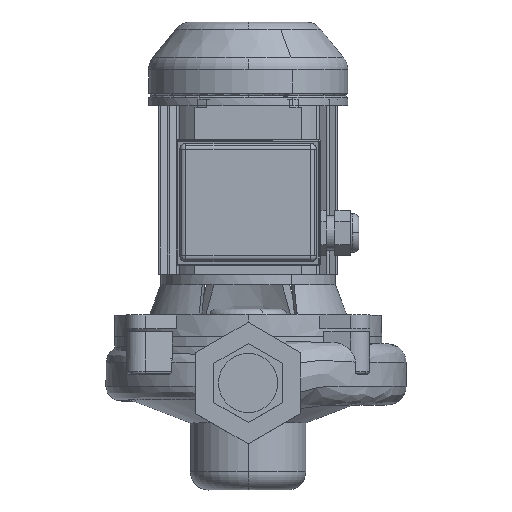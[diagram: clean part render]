
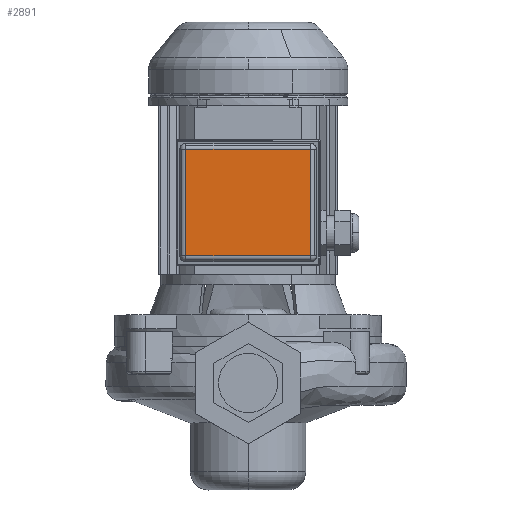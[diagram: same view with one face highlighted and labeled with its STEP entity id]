
A CAD part, top view. The second image highlights one B-rep face of the part: STEP entity #2891.
In plain terms, the highlighted planar face has unit normal (0, 0, 1).
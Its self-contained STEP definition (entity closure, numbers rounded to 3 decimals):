
#2891=ADVANCED_FACE('',(#6390),#6391,.T.);
#3145=EDGE_CURVE('',#6795,#6799,#6800,.T.);
#3151=EDGE_CURVE('',#6805,#6795,#6809,.T.);
#3157=EDGE_CURVE('',#6814,#6805,#6818,.T.);
#3187=EDGE_CURVE('',#6799,#6814,#6863,.T.);
#6390=FACE_OUTER_BOUND('',#11128,.T.);
#6391=PLANE('',#11129);
#6795=VERTEX_POINT('',#11605);
#6799=VERTEX_POINT('',#11610);
#6800=LINE('',#11611,#11612);
#6805=VERTEX_POINT('',#11619);
#6809=LINE('',#11624,#11625);
#6814=VERTEX_POINT('',#11632);
#6818=LINE('',#11637,#11638);
#6863=LINE('',#11702,#11703);
#11128=EDGE_LOOP('',(#19491,#19492,#19493,#19494));
#11129=AXIS2_PLACEMENT_3D('',#19495,#19496,#19497);
#11605=CARTESIAN_POINT('',(-73.77,-79.02,390.0));
#11610=CARTESIAN_POINT('',(-73.77,-9.02,390.0));
#11611=CARTESIAN_POINT('',(-73.77,-79.02,390.0));
#11612=VECTOR('',#20238,1.0);
#11619=CARTESIAN_POINT('',(8.23,-79.02,390.0));
#11624=CARTESIAN_POINT('',(8.23,-79.02,390.0));
#11625=VECTOR('',#20245,1.0);
#11632=CARTESIAN_POINT('',(8.23,-9.02,390.0));
#11637=CARTESIAN_POINT('',(8.23,-9.02,390.0));
#11638=VECTOR('',#20252,1.0);
#11702=CARTESIAN_POINT('',(-73.77,-9.02,390.0));
#11703=VECTOR('',#20287,1.0);
#19491=ORIENTED_EDGE('',*,*,#3157,.F.);
#19492=ORIENTED_EDGE('',*,*,#3187,.F.);
#19493=ORIENTED_EDGE('',*,*,#3145,.F.);
#19494=ORIENTED_EDGE('',*,*,#3151,.F.);
#19495=CARTESIAN_POINT('',(-77.77,-5.02,390.0));
#19496=DIRECTION('',(0.0,0.0,1.0));
#19497=DIRECTION('',(1.0,0.0,0.0));
#20238=DIRECTION('',(0.0,1.0,0.0));
#20245=DIRECTION('',(-1.0,0.0,0.0));
#20252=DIRECTION('',(0.0,-1.0,0.0));
#20287=DIRECTION('',(1.0,0.0,0.0));
